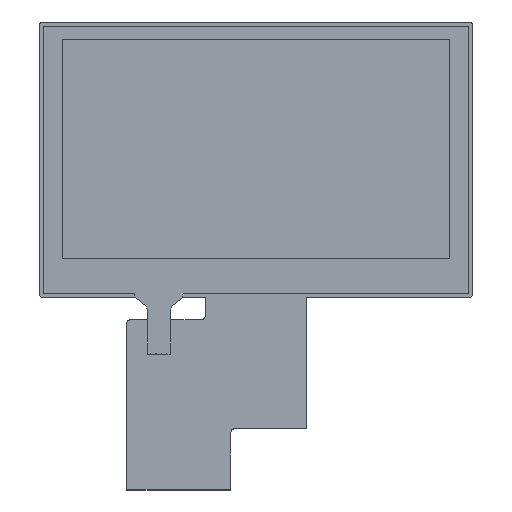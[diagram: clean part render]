
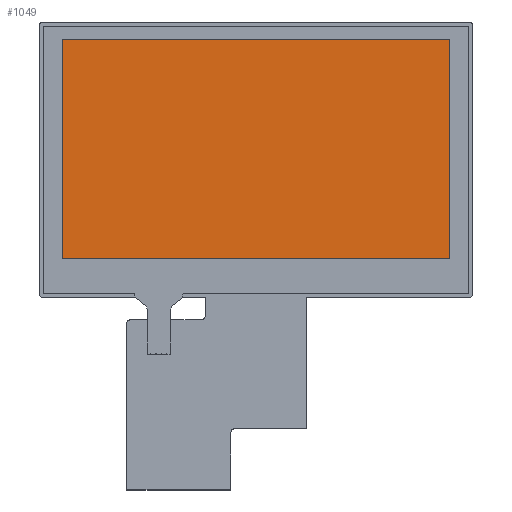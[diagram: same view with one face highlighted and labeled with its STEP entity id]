
A CAD part, top view. The second image highlights one B-rep face of the part: STEP entity #1049.
In plain terms, the highlighted planar face has unit normal (0, 0, 1).
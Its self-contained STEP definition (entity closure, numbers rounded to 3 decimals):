
#207=DIRECTION('',(0.,-1.,0.));
#208=VECTOR('',#207,53.456);
#209=CARTESIAN_POINT('',(-47.32,26.728,1.35));
#210=LINE('',#209,#208);
#211=DIRECTION('',(-1.,0.,0.));
#212=VECTOR('',#211,94.64);
#213=CARTESIAN_POINT('',(47.32,26.728,1.35));
#214=LINE('',#213,#212);
#215=DIRECTION('',(0.,1.,0.));
#216=VECTOR('',#215,53.456);
#217=CARTESIAN_POINT('',(47.32,-26.728,1.35));
#218=LINE('',#217,#216);
#219=DIRECTION('',(1.,0.,0.));
#220=VECTOR('',#219,94.64);
#221=CARTESIAN_POINT('',(-47.32,-26.728,1.35));
#222=LINE('',#221,#220);
#791=CARTESIAN_POINT('',(-47.32,26.728,1.35));
#792=CARTESIAN_POINT('',(-47.32,-26.728,1.35));
#793=VERTEX_POINT('',#791);
#794=VERTEX_POINT('',#792);
#795=CARTESIAN_POINT('',(47.32,-26.728,1.35));
#796=VERTEX_POINT('',#795);
#797=CARTESIAN_POINT('',(47.32,26.728,1.35));
#798=VERTEX_POINT('',#797);
#1038=CARTESIAN_POINT('',(-51.748,-35.191,1.35));
#1039=DIRECTION('',(0.,0.,1.));
#1040=DIRECTION('',(1.,0.,0.));
#1041=AXIS2_PLACEMENT_3D('',#1038,#1039,#1040);
#1042=PLANE('',#1041);
#1043=ORIENTED_EDGE('',*,*,#990,.F.);
#1044=ORIENTED_EDGE('',*,*,#1005,.F.);
#1045=ORIENTED_EDGE('',*,*,#1019,.F.);
#1046=ORIENTED_EDGE('',*,*,#1032,.F.);
#1047=EDGE_LOOP('',(#1043,#1044,#1045,#1046));
#1048=FACE_OUTER_BOUND('',#1047,.F.);
#990=EDGE_CURVE('',#793,#794,#210,.T.);
#1005=EDGE_CURVE('',#798,#793,#214,.T.);
#1019=EDGE_CURVE('',#796,#798,#218,.T.);
#1032=EDGE_CURVE('',#794,#796,#222,.T.);
#1049=ADVANCED_FACE('',(#1048),#1042,.T.);
